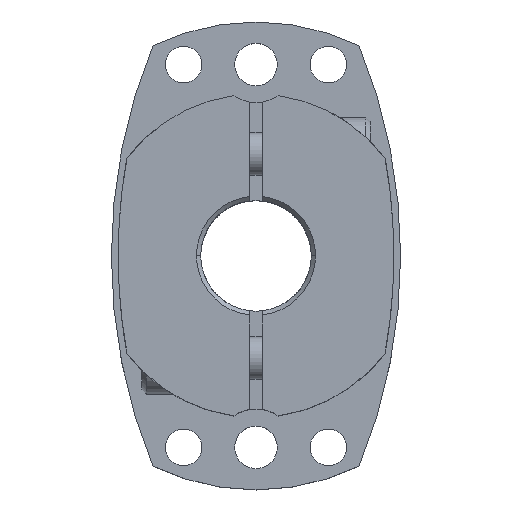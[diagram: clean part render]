
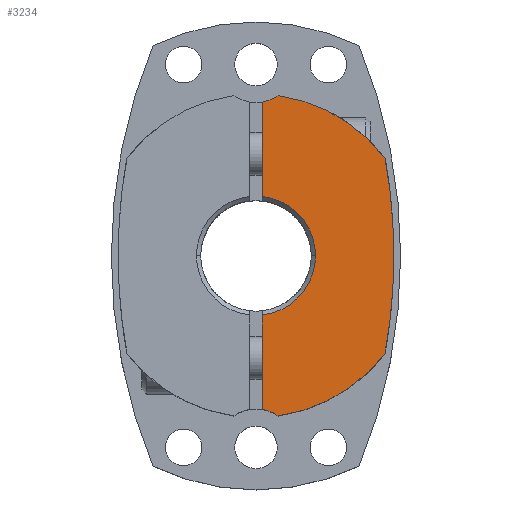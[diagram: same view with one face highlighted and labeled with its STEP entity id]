
A CAD part, top view. The second image highlights one B-rep face of the part: STEP entity #3234.
In plain terms, the highlighted planar face has unit normal (0, 0, 1).
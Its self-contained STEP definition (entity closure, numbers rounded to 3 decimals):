
#225=CARTESIAN_POINT('',(7.0,0.,17.0));
#226=VERTEX_POINT('',#225);
#235=CARTESIAN_POINT('',(0.75,6.96,17.0));
#236=VERTEX_POINT('',#235);
#237=CARTESIAN_POINT('',(0.0,0.,17.0));
#238=DIRECTION('',(0.0,0.0,1.0));
#239=DIRECTION('',(-1.0,0.0,0.0));
#240=AXIS2_PLACEMENT_3D('',#237,#238,#239);
#241=CIRCLE('',#240,7.0);
#242=EDGE_CURVE('',#226,#236,#241,.T.);
#537=CARTESIAN_POINT('',(16.2,0.,17.0));
#538=VERTEX_POINT('',#537);
#646=CARTESIAN_POINT('',(15.173,11.435,17.0));
#647=VERTEX_POINT('',#646);
#654=CARTESIAN_POINT('',(-48.,0.,17.0));
#655=DIRECTION('',(0.0,0.0,-1.0));
#656=DIRECTION('',(1.0,0.0,0.0));
#657=AXIS2_PLACEMENT_3D('',#654,#655,#656);
#658=CIRCLE('',#657,64.2);
#659=EDGE_CURVE('',#647,#538,#658,.T.);
#2305=CARTESIAN_POINT('',(2.593,18.822,17.0));
#2306=VERTEX_POINT('',#2305);
#2313=CARTESIAN_POINT('',(0.,0.,17.0));
#2314=DIRECTION('',(0.0,0.0,-1.0));
#2315=DIRECTION('',(1.0,0.0,0.0));
#2316=AXIS2_PLACEMENT_3D('',#2313,#2314,#2315);
#2317=CIRCLE('',#2316,19.);
#2318=EDGE_CURVE('',#2306,#647,#2317,.T.);
#2531=CARTESIAN_POINT('',(15.173,-11.435,17.0));
#2532=VERTEX_POINT('',#2531);
#2533=CARTESIAN_POINT('',(-48.,0.,17.0));
#2534=DIRECTION('',(0.0,0.0,-1.0));
#2535=DIRECTION('',(1.0,0.0,0.0));
#2536=AXIS2_PLACEMENT_3D('',#2533,#2534,#2535);
#2537=CIRCLE('',#2536,64.2);
#2538=EDGE_CURVE('',#538,#2532,#2537,.T.);
#2747=CARTESIAN_POINT('',(0.75,18.063,17.0));
#2748=VERTEX_POINT('',#2747);
#2755=CARTESIAN_POINT('',(0.,22.5,17.0));
#2756=DIRECTION('',(0.0,0.0,-1.0));
#2757=DIRECTION('',(1.0,0.0,0.0));
#2758=AXIS2_PLACEMENT_3D('',#2755,#2756,#2757);
#2759=CIRCLE('',#2758,4.5);
#2760=EDGE_CURVE('',#2306,#2748,#2759,.T.);
#2772=CARTESIAN_POINT('',(0.75,-18.063,17.0));
#2773=VERTEX_POINT('',#2772);
#2789=CARTESIAN_POINT('',(2.593,-18.822,17.0));
#2790=VERTEX_POINT('',#2789);
#2797=CARTESIAN_POINT('',(0.,-22.5,17.0));
#2798=DIRECTION('',(0.0,0.0,-1.0));
#2799=DIRECTION('',(1.0,0.0,0.0));
#2800=AXIS2_PLACEMENT_3D('',#2797,#2798,#2799);
#2801=CIRCLE('',#2800,4.5);
#2802=EDGE_CURVE('',#2773,#2790,#2801,.T.);
#3156=CARTESIAN_POINT('',(0.75,-6.96,17.0));
#3157=VERTEX_POINT('',#3156);
#3158=CARTESIAN_POINT('',(0.75,-6.96,17.0));
#3159=DIRECTION('',(0.0,-1.0,0.0));
#3160=VECTOR('',#3159,11.103);
#3161=LINE('',#3158,#3160);
#3162=EDGE_CURVE('',#3157,#2773,#3161,.T.);
#3200=CARTESIAN_POINT('',(0.,0.,17.0));
#3201=DIRECTION('',(0.0,0.0,1.0));
#3202=DIRECTION('',(1.0,0.0,0.0));
#3203=AXIS2_PLACEMENT_3D('',#3200,#3201,#3202);
#3204=PLANE('',#3203);
#3205=ORIENTED_EDGE('',*,*,#2760,.T.);
#3206=CARTESIAN_POINT('',(0.75,18.063,17.0));
#3207=DIRECTION('',(0.0,-1.0,0.0));
#3208=VECTOR('',#3207,11.103);
#3209=LINE('',#3206,#3208);
#3210=EDGE_CURVE('',#2748,#236,#3209,.T.);
#3211=ORIENTED_EDGE('',*,*,#3210,.T.);
#3212=ORIENTED_EDGE('',*,*,#242,.F.);
#3213=CARTESIAN_POINT('',(0.0,0.,17.0));
#3214=DIRECTION('',(0.0,0.0,1.0));
#3215=DIRECTION('',(-1.0,0.0,0.0));
#3216=AXIS2_PLACEMENT_3D('',#3213,#3214,#3215);
#3217=CIRCLE('',#3216,7.0);
#3218=EDGE_CURVE('',#3157,#226,#3217,.T.);
#3219=ORIENTED_EDGE('',*,*,#3218,.F.);
#3220=ORIENTED_EDGE('',*,*,#3162,.T.);
#3221=ORIENTED_EDGE('',*,*,#2802,.T.);
#3222=CARTESIAN_POINT('',(0.,0.0,17.0));
#3223=DIRECTION('',(0.0,0.0,-1.0));
#3224=DIRECTION('',(1.0,0.0,0.0));
#3225=AXIS2_PLACEMENT_3D('',#3222,#3223,#3224);
#3226=CIRCLE('',#3225,19.);
#3227=EDGE_CURVE('',#2532,#2790,#3226,.T.);
#3228=ORIENTED_EDGE('',*,*,#3227,.F.);
#3229=ORIENTED_EDGE('',*,*,#2538,.F.);
#3230=ORIENTED_EDGE('',*,*,#659,.F.);
#3231=ORIENTED_EDGE('',*,*,#2318,.F.);
#3232=EDGE_LOOP('',(#3205,#3211,#3212,#3219,#3220,#3221,#3228,#3229,#3230,#3231));
#3233=FACE_OUTER_BOUND('',#3232,.T.);
#3234=ADVANCED_FACE('',(#3233),#3204,.T.);
